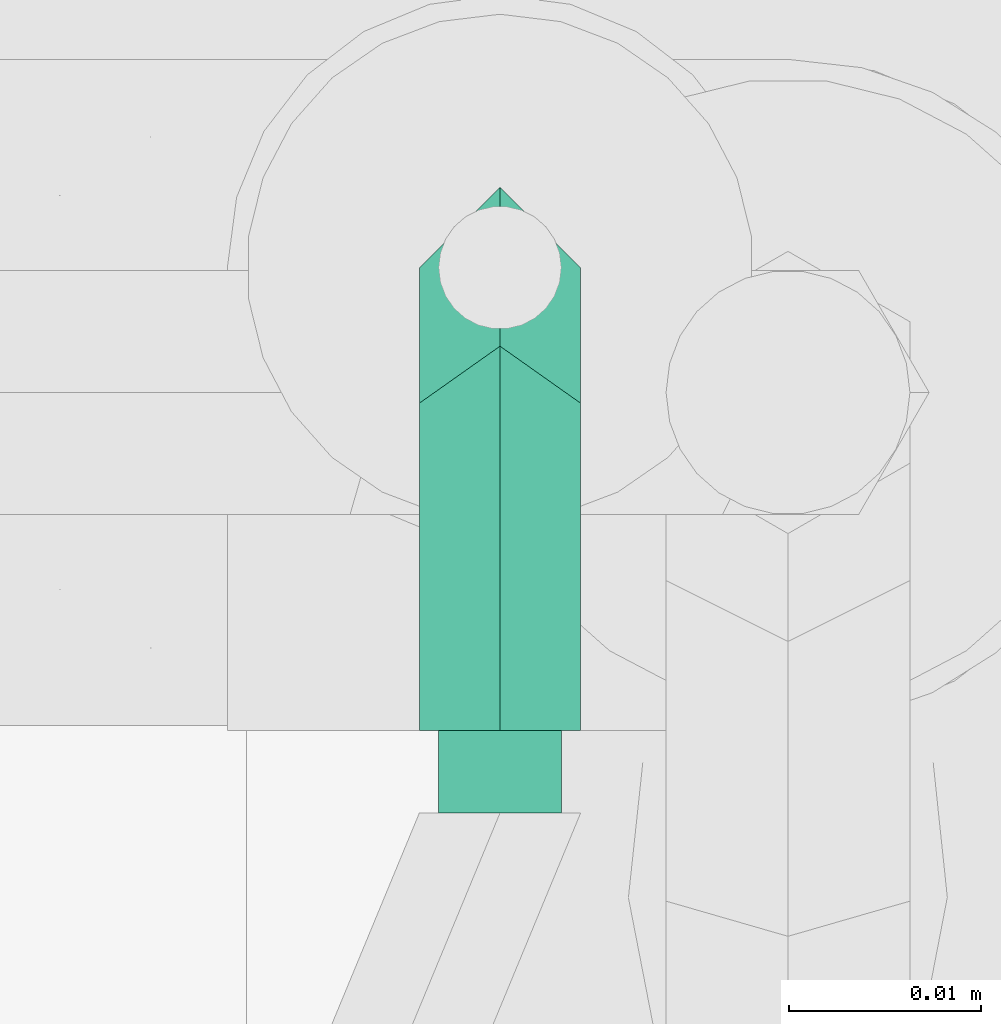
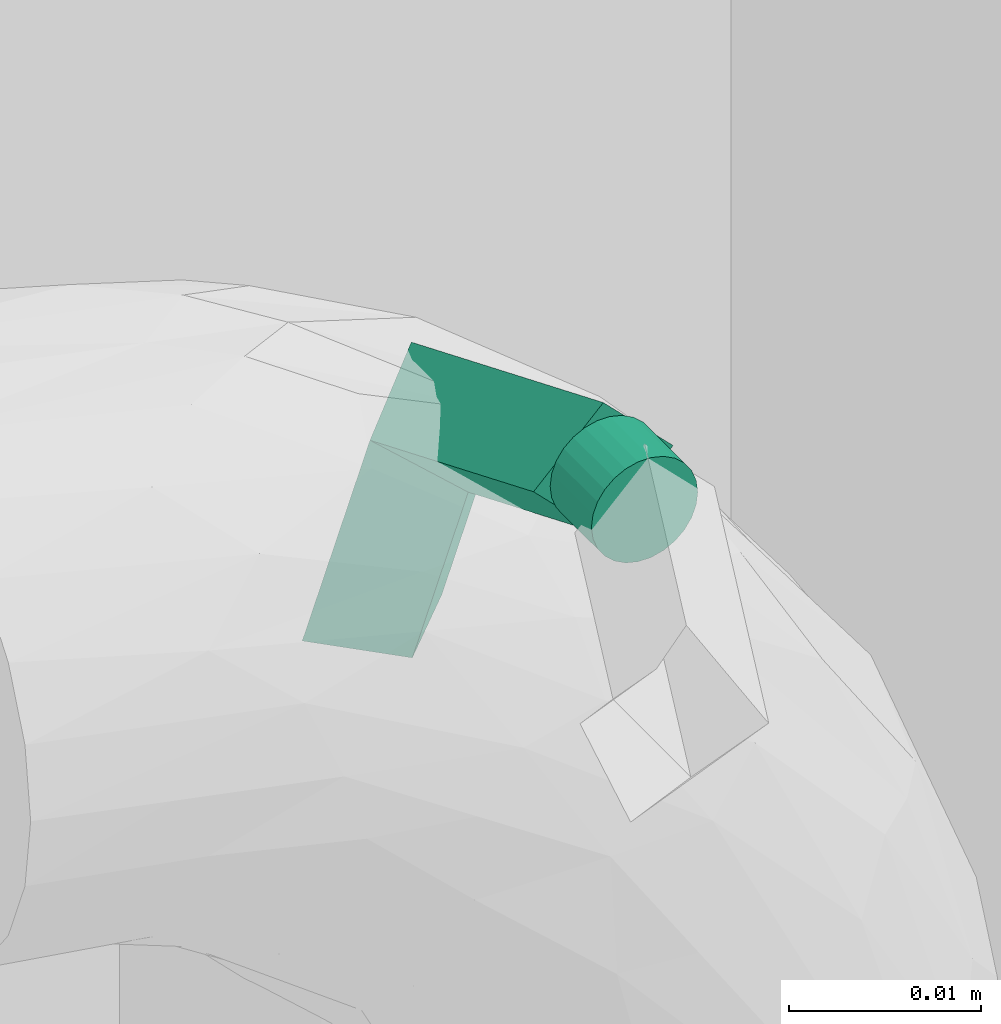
# One storey, part 25 of 32: 1 flow fitting, 1 flow segment.
"""IFC2X3 building model written with IfcOpenShell, lengths in metres."""

from ifc_helpers import new_model, entity, si_unit, converted_unit, derived_unit, direction, frame, origin, origin_2d_with_axis, place, context, subcontext, project, spatial, circle, extrude, faceted_brep, source, transform, mapped, material, type_object, type_shapes, element, save


model = new_model("IFC2X3")

# Units and contexts
model_context = context("Model", 3, precision=1e-05, world=origin(), true_north=direction((6.123031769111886e-17, 1.0)))
body_context = subcontext(model_context, "Body", "Model", "MODEL_VIEW")
ifc_project = project(units=[si_unit("LENGTHUNIT", "METRE"), si_unit("AREAUNIT", "SQUARE_METRE"), si_unit("VOLUMEUNIT", "CUBIC_METRE"), converted_unit("PLANEANGLEUNIT", "DEGREE", entity("IfcPlaneAngleMeasure", 0.017453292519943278), si_unit("PLANEANGLEUNIT", "RADIAN"), dimensions=[0, 0, 0, 0, 0, 0, 0]), si_unit("MASSUNIT", "GRAM", prefix="KILO"), derived_unit("MASSDENSITYUNIT", [(si_unit("MASSUNIT", "GRAM", prefix="KILO"), 1), (si_unit("LENGTHUNIT", "METRE"), -3)]), derived_unit("IONCONCENTRATIONUNIT", [(si_unit("MASSUNIT", "GRAM", prefix="KILO"), 1), (si_unit("LENGTHUNIT", "METRE"), -3)]), derived_unit("MOMENTOFINERTIAUNIT", [(si_unit("LENGTHUNIT", "METRE"), 4)]), si_unit("TIMEUNIT", "SECOND"), si_unit("FREQUENCYUNIT", "HERTZ"), si_unit("THERMODYNAMICTEMPERATUREUNIT", "DEGREE_CELSIUS"), derived_unit("THERMALTRANSMITTANCEUNIT", [(si_unit("MASSUNIT", "GRAM", prefix="KILO"), 1), (si_unit("THERMODYNAMICTEMPERATUREUNIT", "KELVIN"), -1), (si_unit("TIMEUNIT", "SECOND"), -3)]), derived_unit("THERMALCONDUCTANCEUNIT", [(si_unit("MASSUNIT", "GRAM", prefix="KILO"), 1), (si_unit("THERMODYNAMICTEMPERATUREUNIT", "KELVIN"), -1), (si_unit("TIMEUNIT", "SECOND"), -3), (si_unit("LENGTHUNIT", "METRE"), 1)]), derived_unit("VOLUMETRICFLOWRATEUNIT", [(si_unit("LENGTHUNIT", "METRE", prefix="DECI"), 3), (si_unit("TIMEUNIT", "SECOND"), -1)]), derived_unit("MASSFLOWRATEUNIT", [(si_unit("MASSUNIT", "GRAM", prefix="KILO"), 1), (si_unit("TIMEUNIT", "SECOND"), -1)]), derived_unit("ROTATIONALFREQUENCYUNIT", [(si_unit("TIMEUNIT", "SECOND"), -1)]), si_unit("ELECTRICCURRENTUNIT", "AMPERE"), si_unit("ELECTRICVOLTAGEUNIT", "VOLT"), si_unit("POWERUNIT", "WATT"), si_unit("FORCEUNIT", "NEWTON", prefix="KILO"), si_unit("ILLUMINANCEUNIT", "LUX"), si_unit("LUMINOUSFLUXUNIT", "LUMEN"), si_unit("LUMINOUSINTENSITYUNIT", "CANDELA"), si_unit("ENERGYUNIT", "JOULE"), derived_unit("USERDEFINED", [(si_unit("MASSUNIT", "GRAM", prefix="KILO"), -1), (si_unit("LENGTHUNIT", "METRE"), -2), (si_unit("TIMEUNIT", "SECOND"), 3), (si_unit("LUMINOUSFLUXUNIT", "LUMEN"), 1)]), derived_unit("USERDEFINED", [(si_unit("MASSUNIT", "GRAM", prefix="KILO"), 1), (si_unit("TIMEUNIT", "SECOND"), -3), (si_unit("LENGTHUNIT", "METRE"), 3), (si_unit("ELECTRICCURRENTUNIT", "AMPERE"), -2)]), derived_unit("SOUNDPOWERUNIT", [(si_unit("MASSUNIT", "GRAM", prefix="KILO"), 1), (si_unit("TIMEUNIT", "SECOND"), -3), (si_unit("LENGTHUNIT", "METRE"), 2)]), derived_unit("SOUNDPRESSUREUNIT", [(si_unit("MASSUNIT", "GRAM", prefix="KILO"), 1), (si_unit("LENGTHUNIT", "METRE"), -1), (si_unit("TIMEUNIT", "SECOND"), -2)]), derived_unit("LINEARVELOCITYUNIT", [(si_unit("LENGTHUNIT", "METRE"), 1), (si_unit("TIMEUNIT", "SECOND"), -1)]), si_unit("PRESSUREUNIT", "PASCAL"), derived_unit("USERDEFINED", [(si_unit("MASSUNIT", "GRAM", prefix="KILO"), 1), (si_unit("LENGTHUNIT", "METRE"), -2), (si_unit("TIMEUNIT", "SECOND"), -2)]), derived_unit("LINEARFORCEUNIT", [(si_unit("MASSUNIT", "GRAM", prefix="KILO"), 1), (si_unit("TIMEUNIT", "SECOND"), -2)]), derived_unit("PLANARFORCEUNIT", [(si_unit("MASSUNIT", "GRAM", prefix="KILO"), 1), (si_unit("LENGTHUNIT", "METRE"), -1), (si_unit("TIMEUNIT", "SECOND"), -2)]), derived_unit("SPECIFICHEATCAPACITYUNIT", [(si_unit("THERMODYNAMICTEMPERATUREUNIT", "KELVIN"), -1), (si_unit("LENGTHUNIT", "METRE"), 2), (si_unit("TIMEUNIT", "SECOND"), -2)]), derived_unit("HEATFLUXDENSITYUNIT", [(si_unit("MASSUNIT", "GRAM", prefix="KILO"), 1), (si_unit("TIMEUNIT", "SECOND"), -3)]), derived_unit("HEATINGVALUEUNIT", [(si_unit("LENGTHUNIT", "METRE"), 2), (si_unit("TIMEUNIT", "SECOND"), -2)]), derived_unit("VAPORPERMEABILITYUNIT", [(si_unit("LENGTHUNIT", "METRE"), -1), (si_unit("TIMEUNIT", "SECOND"), 1)]), derived_unit("DYNAMICVISCOSITYUNIT", [(si_unit("MASSUNIT", "GRAM", prefix="KILO"), 1), (si_unit("TIMEUNIT", "SECOND"), -1), (si_unit("LENGTHUNIT", "METRE"), -1)]), derived_unit("THERMALEXPANSIONCOEFFICIENTUNIT", [(si_unit("THERMODYNAMICTEMPERATUREUNIT", "KELVIN"), -1)]), derived_unit("MODULUSOFELASTICITYUNIT", [(si_unit("MASSUNIT", "GRAM", prefix="KILO"), 1), (si_unit("LENGTHUNIT", "METRE"), -1), (si_unit("TIMEUNIT", "SECOND"), -2)]), derived_unit("ISOTHERMALMOISTURECAPACITYUNIT", [(si_unit("MASSUNIT", "GRAM", prefix="KILO"), -1), (si_unit("LENGTHUNIT", "METRE"), 3)]), derived_unit("MOISTUREDIFFUSIVITYUNIT", [(si_unit("TIMEUNIT", "SECOND"), -1), (si_unit("LENGTHUNIT", "METRE"), 2)]), derived_unit("MASSPERLENGTHUNIT", [(si_unit("MASSUNIT", "GRAM", prefix="KILO"), 1), (si_unit("LENGTHUNIT", "METRE"), -1)]), derived_unit("THERMALRESISTANCEUNIT", [(si_unit("MASSUNIT", "GRAM", prefix="KILO"), -1), (si_unit("TIMEUNIT", "SECOND"), 3), (si_unit("THERMODYNAMICTEMPERATUREUNIT", "KELVIN"), 1)]), derived_unit("ACCELERATIONUNIT", [(si_unit("LENGTHUNIT", "METRE"), 1), (si_unit("TIMEUNIT", "SECOND"), -2)]), derived_unit("ANGULARVELOCITYUNIT", [(si_unit("TIMEUNIT", "SECOND"), -1), (si_unit("PLANEANGLEUNIT", "RADIAN"), 1)]), derived_unit("LINEARSTIFFNESSUNIT", [(si_unit("MASSUNIT", "GRAM", prefix="KILO"), 1), (si_unit("TIMEUNIT", "SECOND"), -2)]), derived_unit("WARPINGCONSTANTUNIT", [(si_unit("LENGTHUNIT", "METRE"), 6)]), derived_unit("LINEARMOMENTUNIT", [(si_unit("MASSUNIT", "GRAM", prefix="KILO"), 1), (si_unit("LENGTHUNIT", "METRE"), 1), (si_unit("TIMEUNIT", "SECOND"), -2)]), derived_unit("TORQUEUNIT", [(si_unit("MASSUNIT", "GRAM", prefix="KILO"), 1), (si_unit("LENGTHUNIT", "METRE"), 2), (si_unit("TIMEUNIT", "SECOND"), -2)])], contexts=[model_context])

# Site, building, storey
site_placement = place(None, origin())
site = spatial("IfcSite", under=ifc_project, at=site_placement, Name="Default", CompositionType="ELEMENT")
building_placement = place(site_placement, origin())
building = spatial("IfcBuilding", under=site, at=building_placement, CompositionType="ELEMENT")
storey_placement = place(building_placement, origin())
storey = spatial("IfcBuildingStorey", under=building, at=storey_placement, Name="Niveau 0", CompositionType="ELEMENT", Elevation=-1.949160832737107e-14)

# Flow segment
pipe_segment_type = type_object("IfcPipeSegmentType", Name="Canalisation:Cuivre Frigo", PredefinedType="NOTDEFINED")
flow_segment_placement = place(storey_placement, origin())
element("IfcFlowSegment", 1, at=flow_segment_placement, inside=storey, type_object=pipe_segment_type, Name="Canalisation:Cuivre Frigo", ObjectType="Canalisation:Cuivre Frigo", context=body_context, shape_type="SweptSolid", body=[
    extrude(circle(Radius=0.0032, at=origin_2d_with_axis()), frame((-13.575301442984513, 2.7636264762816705, 2.4450000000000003), z_axis=(0.0, 1.0, 0.0), x_axis=(1.0, 0.0, 0.0)), (0.0, 0.0, 1.0), 0.004300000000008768),
])

# Flow fitting
ifc_material = material(Name="Cuivre")
pipe_fitting_type = type_object("IfcPipeFittingType", Name="Coude - tube frigo:Standard", PredefinedType="NOTDEFINED", material=ifc_material)
shared_shape = source(origin(), body_context, "Body", "Brep", [
    faceted_brep([(-0.004088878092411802, 0.004088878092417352, 0.0), (-0.007058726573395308, 0.007058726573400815, -0.004200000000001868), (0.0, 0.024099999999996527, -0.004200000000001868), (0.0042000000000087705, 0.024099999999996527, 0.0), (-0.010028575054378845, 0.010028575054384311, 0.0), (-0.00419999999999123, 0.024099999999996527, 0.0), (-0.00705872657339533, 0.007058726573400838, 0.004199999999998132), (0.0, 0.024099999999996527, 0.004199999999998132), (-0.024099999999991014, -0.004200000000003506, 0.0), (-0.024099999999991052, 0.0, -0.004200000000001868), (-0.02409999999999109, 0.0041999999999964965, 0.0), (-0.024099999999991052, 0.0, 0.004199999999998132)], [[[0, 1, 2, 3]], [[1, 4, 5, 2]], [[4, 6, 7, 5]], [[6, 0, 3, 7]], [[8, 9, 1, 0]], [[9, 10, 4, 1]], [[10, 11, 6, 4]], [[11, 8, 0, 6]], [[3, 2, 5, 7]], [[11, 10, 9, 8]]]),
])
type_shapes(pipe_fitting_type, [shared_shape])
flow_fitting_placement = place(storey_placement, frame((-13.575301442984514, 2.792026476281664, 2.4449999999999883), z_axis=(-1.0, 0.0, 0.0), x_axis=(0.0, 1.0, 0.0)))
element("IfcFlowFitting", 2, at=flow_fitting_placement, inside=storey, type_object=pipe_fitting_type, material=ifc_material, Name="Coude - tube frigo:Standard", ObjectType="Coude - tube frigo:Standard", context=body_context, shape_type="MappedRepresentation", body=[
    mapped(shared_shape, transform((0.0, 0.0, 0.0), scale=1.0)),
])

save(model, "model.ifc")
